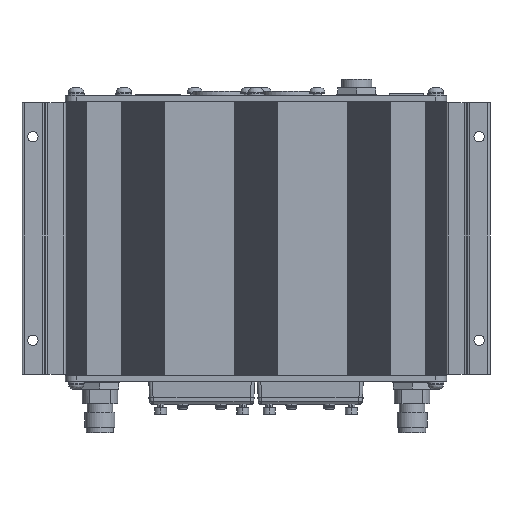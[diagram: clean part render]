
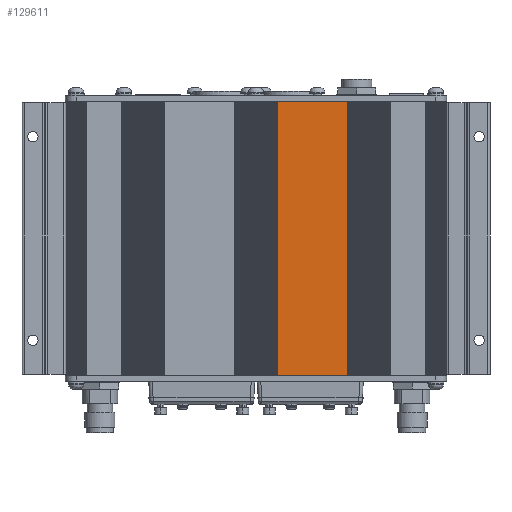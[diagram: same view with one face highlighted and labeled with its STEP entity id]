
A CAD part, front view. The second image highlights one B-rep face of the part: STEP entity #129611.
In plain terms, the highlighted planar face has unit normal (0, -1, 0).
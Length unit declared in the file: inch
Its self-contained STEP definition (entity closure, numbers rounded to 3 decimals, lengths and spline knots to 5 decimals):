
#96731=DIRECTION('',(-1.,0.,0.));
#96732=VECTOR('',#96731,1.01339);
#96733=CARTESIAN_POINT('',(1.32756,-0.79331,
-1.98819));
#96734=LINE('',#96733,#96732);
#103229=DIRECTION('',(0.,0.,1.));
#103230=VECTOR('',#103229,3.97638);
#103231=CARTESIAN_POINT('',(0.31417,-0.79331,
-1.98819));
#103232=LINE('',#103231,#103230);
#103233=DIRECTION('',(-1.,0.,0.));
#103234=VECTOR('',#103233,1.01339);
#103235=CARTESIAN_POINT('',(1.32756,-0.79331,
1.98819));
#103236=LINE('',#103235,#103234);
#103241=DIRECTION('',(0.,0.,-1.));
#103242=VECTOR('',#103241,3.97638);
#103243=CARTESIAN_POINT('',(1.32756,-0.79331,
1.98819));
#103244=LINE('',#103243,#103242);
#117481=CARTESIAN_POINT('',(1.32756,-0.79331,
1.98819));
#117482=CARTESIAN_POINT('',(0.31417,-0.79331,
1.98819));
#117483=VERTEX_POINT('',#117481);
#117484=VERTEX_POINT('',#117482);
#117485=CARTESIAN_POINT('',(1.32756,-0.79331,
-1.98819));
#117486=CARTESIAN_POINT('',(0.31417,-0.79331,
-1.98819));
#117487=VERTEX_POINT('',#117485);
#117488=VERTEX_POINT('',#117486);
#129599=CARTESIAN_POINT('',(0.,-0.79331,-1.98819));
#129600=DIRECTION('',(0.,1.,0.));
#129601=DIRECTION('',(0.,0.,1.));
#129602=AXIS2_PLACEMENT_3D('',#129599,#129600,#129601);
#129603=PLANE('',#129602);
#129605=ORIENTED_EDGE('',*,*,#129604,.T.);
#129606=ORIENTED_EDGE('',*,*,#126069,.T.);
#129607=ORIENTED_EDGE('',*,*,#129593,.T.);
#129608=ORIENTED_EDGE('',*,*,#125646,.F.);
#129609=EDGE_LOOP('',(#129605,#129606,#129607,#129608));
#129610=FACE_OUTER_BOUND('',#129609,.F.);
#129611=ADVANCED_FACE('',(#129610),#129603,.F.);
#125646=EDGE_CURVE('',#117483,#117484,#103236,.T.);
#126069=EDGE_CURVE('',#117487,#117488,#96734,.T.);
#129593=EDGE_CURVE('',#117488,#117484,#103232,.T.);
#129604=EDGE_CURVE('',#117483,#117487,#103244,.T.);
